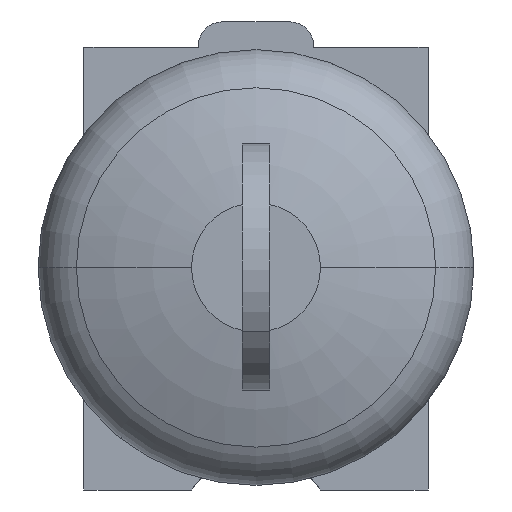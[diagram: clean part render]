
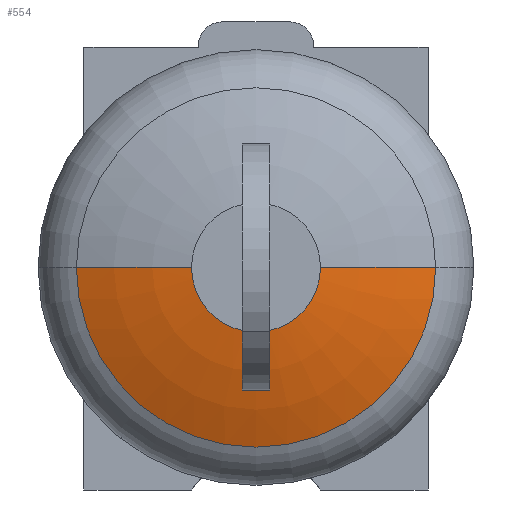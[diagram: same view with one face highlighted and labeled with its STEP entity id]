
A CAD part, top view. The second image highlights one B-rep face of the part: STEP entity #554.
In plain terms, the highlighted toroidal (fillet/blend) face has major radius 0 mm and minor radius 40 mm.
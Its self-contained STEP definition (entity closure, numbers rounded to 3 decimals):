
#554 = ADVANCED_FACE( '', ( #1257 ), #1258, .T. );
#1257 = FACE_OUTER_BOUND( '', #1977, .T. );
#1258 = TOROIDAL_SURFACE( '', #1978, 0., 40. );
#1977 = EDGE_LOOP( '', ( #4876, #4877, #4878, #4879 ) );
#1978 = AXIS2_PLACEMENT_3D( '', #4880, #4881, #4882 );
#4876 = ORIENTED_EDGE( '', *, *, #5779, .T. );
#4877 = ORIENTED_EDGE( '', *, *, #5858, .T. );
#4878 = ORIENTED_EDGE( '', *, *, #5782, .T. );
#4879 = ORIENTED_EDGE( '', *, *, #5937, .T. );
#4880 = CARTESIAN_POINT( '', ( 0., 0., 20.305 ) );
#4881 = DIRECTION( '', ( 0., 0., 1. ) );
#4882 = DIRECTION( '', ( 1., 0., 0. ) );
#5779 = EDGE_CURVE( '', #7265, #7266, #7267, .T. );
#5782 = EDGE_CURVE( '', #7272, #7270, #7273, .T. );
#5858 = EDGE_CURVE( '', #7266, #7272, #7415, .T. );
#5937 = EDGE_CURVE( '', #7270, #7265, #7524, .T. );
#7265 = VERTEX_POINT( '', #9583 );
#7266 = VERTEX_POINT( '', #9584 );
#7267 = CIRCLE( '', #9585, 40. );
#7270 = VERTEX_POINT( '', #9588 );
#7272 = VERTEX_POINT( '', #9590 );
#7273 = CIRCLE( '', #9591, 40. );
#7415 = CIRCLE( '', #9818, 5.625 );
#7524 = CIRCLE( '', #10016, 15.666 );
#9583 = CARTESIAN_POINT( '', ( 15.666, 0., 57.11 ) );
#9584 = CARTESIAN_POINT( '', ( 5.625, 0., 59.908 ) );
#9585 = AXIS2_PLACEMENT_3D( '', #11116, #11117, #11118 );
#9588 = CARTESIAN_POINT( '', ( -15.666, 0., 57.11 ) );
#9590 = CARTESIAN_POINT( '', ( -5.625, 0., 59.908 ) );
#9591 = AXIS2_PLACEMENT_3D( '', #11125, #11126, #11127 );
#9818 = AXIS2_PLACEMENT_3D( '', #11273, #11274, #11275 );
#10016 = AXIS2_PLACEMENT_3D( '', #11422, #11423, #11424 );
#11116 = CARTESIAN_POINT( '', ( 0., 0., 20.305 ) );
#11117 = DIRECTION( '', ( 0., -1., 0. ) );
#11118 = DIRECTION( '', ( 1., 0., 0. ) );
#11125 = CARTESIAN_POINT( '', ( 0., 0., 20.305 ) );
#11126 = DIRECTION( '', ( 0., -1., 0. ) );
#11127 = DIRECTION( '', ( -1., 0., 0. ) );
#11273 = CARTESIAN_POINT( '', ( 0., 0., 59.908 ) );
#11274 = DIRECTION( '', ( 0., 0., -1. ) );
#11275 = DIRECTION( '', ( 1., 0., 0. ) );
#11422 = CARTESIAN_POINT( '', ( 0., 0., 57.11 ) );
#11423 = DIRECTION( '', ( 0., 0., 1. ) );
#11424 = DIRECTION( '', ( 0., 1., 0. ) );
